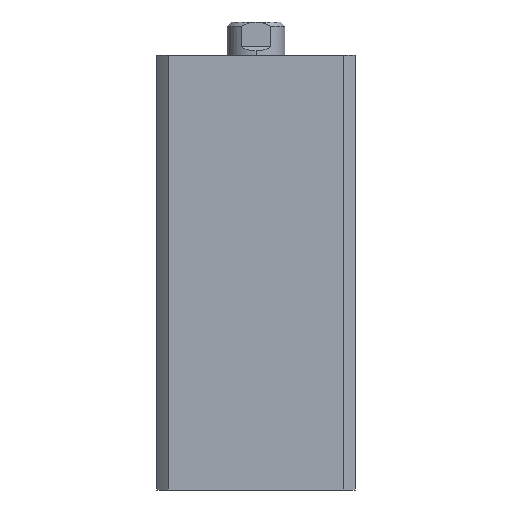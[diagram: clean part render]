
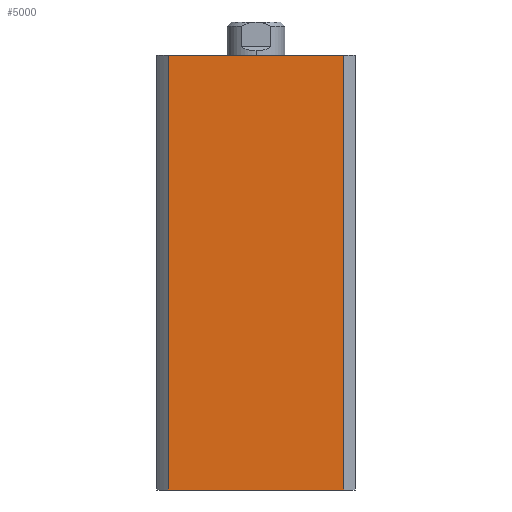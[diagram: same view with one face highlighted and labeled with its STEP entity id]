
A CAD part, left-side view. The second image highlights one B-rep face of the part: STEP entity #5000.
In plain terms, the highlighted planar face has unit normal (-1, 0, 0).
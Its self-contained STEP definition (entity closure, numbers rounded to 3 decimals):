
#13 = CARTESIAN_POINT ( 'NONE',  ( -24., 21.166, 105. ) ) ;
#37 = CARTESIAN_POINT ( 'NONE',  ( -24., -21.166, 105. ) ) ;
#98 = VERTEX_POINT ( 'NONE', #3299 ) ;
#134 = VERTEX_POINT ( 'NONE', #3457 ) ;
#243 = LINE ( 'NONE', #3323, #251 ) ;
#251 = VECTOR ( 'NONE', #3308, 1000. ) ;
#362 = LINE ( 'NONE', #2229, #375 ) ;
#364 = LINE ( 'NONE', #2215, #371 ) ;
#366 = LINE ( 'NONE', #2230, #373 ) ;
#371 = VECTOR ( 'NONE', #2225, 1000. ) ;
#373 = VECTOR ( 'NONE', #2235, 1000. ) ;
#375 = VECTOR ( 'NONE', #2237, 1000. ) ;
#1259 = ORIENTED_EDGE ( 'NONE', *, *, #2071, .T. ) ;
#1260 = ORIENTED_EDGE ( 'NONE', *, *, #1661, .F. ) ;
#1261 = ORIENTED_EDGE ( 'NONE', *, *, #2070, .F. ) ;
#1262 = ORIENTED_EDGE ( 'NONE', *, *, #2069, .T. ) ;
#1410 = FACE_OUTER_BOUND ( 'NONE', #3951, .T. ) ;
#1661 = EDGE_CURVE ( 'NONE', #1798, #1865, #243, .T. ) ;
#1798 = VERTEX_POINT ( 'NONE', #13 ) ;
#1865 = VERTEX_POINT ( 'NONE', #37 ) ;
#2069 = EDGE_CURVE ( 'NONE', #134, #98, #364, .T. ) ;
#2070 = EDGE_CURVE ( 'NONE', #1865, #98, #366, .T. ) ;
#2071 = EDGE_CURVE ( 'NONE', #1798, #134, #362, .T. ) ;
#2215 = CARTESIAN_POINT ( 'NONE',  ( -24., 0., 0. ) ) ;
#2225 = DIRECTION ( 'NONE',  ( 0., -1., 0. ) ) ;
#2229 = CARTESIAN_POINT ( 'NONE',  ( -24., 21.166, 105. ) ) ;
#2230 = CARTESIAN_POINT ( 'NONE',  ( -24., -21.166, 105. ) ) ;
#2235 = DIRECTION ( 'NONE',  ( 0., 0., -1. ) ) ;
#2237 = DIRECTION ( 'NONE',  ( 0., 0., -1. ) ) ;
#3299 = CARTESIAN_POINT ( 'NONE',  ( -24., -21.166, 0. ) ) ;
#3308 = DIRECTION ( 'NONE',  ( 0., -1., 0. ) ) ;
#3323 = CARTESIAN_POINT ( 'NONE',  ( -24., 0., 105. ) ) ;
#3457 = CARTESIAN_POINT ( 'NONE',  ( -24., 21.166, 0. ) ) ;
#3740 = AXIS2_PLACEMENT_3D ( 'NONE', #4572, #4577, #4578 ) ;
#3951 = EDGE_LOOP ( 'NONE', ( #1262, #1261, #1260, #1259 ) ) ;
#4572 = CARTESIAN_POINT ( 'NONE',  ( -24., 0., 105. ) ) ;
#4575 = PLANE ( 'NONE',  #3740 ) ;
#4577 = DIRECTION ( 'NONE',  ( 1., 0., 0. ) ) ;
#4578 = DIRECTION ( 'NONE',  ( 0., 0., -1. ) ) ;
#5000 = ADVANCED_FACE ( 'NONE', ( #1410 ), #4575, .F. ) ;
